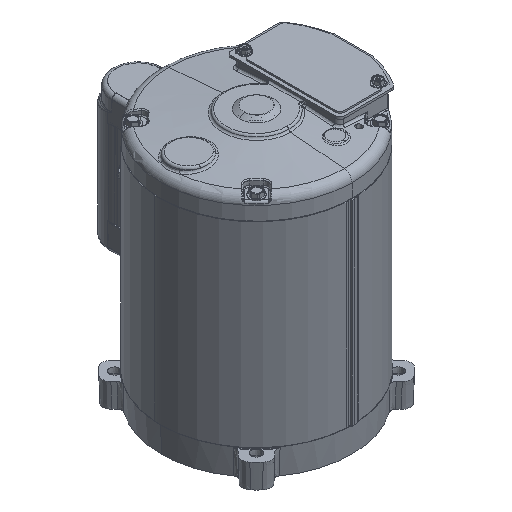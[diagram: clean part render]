
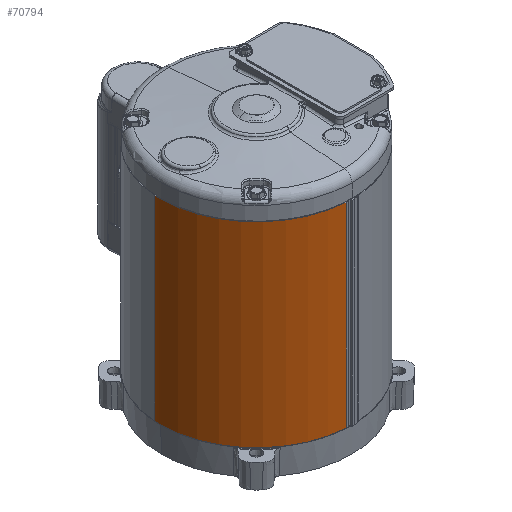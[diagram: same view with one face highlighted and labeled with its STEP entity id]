
A CAD part, isometric view. The second image highlights one B-rep face of the part: STEP entity #70794.
In plain terms, the highlighted cylindrical face has radius 71.369 mm (diameter 142.738 mm), a partial arc.
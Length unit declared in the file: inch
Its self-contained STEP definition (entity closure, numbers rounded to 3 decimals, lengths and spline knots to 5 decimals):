
#1831 = VERTEX_POINT ( 'NONE', #98170 ) ;
#2530 = LINE ( 'NONE', #94974, #38596 ) ;
#4550 = EDGE_CURVE ( 'NONE', #91894, #81452, #50966, .T. ) ;
#6133 = ORIENTED_EDGE ( 'NONE', *, *, #31707, .T. ) ;
#7473 = CARTESIAN_POINT ( 'NONE',  ( 0., 0., 23.58675 ) ) ;
#7788 = AXIS2_PLACEMENT_3D ( 'NONE', #7473, #64777, #15437 ) ;
#9294 = DIRECTION ( 'NONE',  ( 0., 0., 1. ) ) ;
#10003 = CARTESIAN_POINT ( 'NONE',  ( 0., 0., 2.8206 ) ) ;
#10671 = CARTESIAN_POINT ( 'NONE',  ( 0., 0., 2.8206 ) ) ;
#14907 = DIRECTION ( 'NONE',  ( 1., 0., 0. ) ) ;
#15437 = DIRECTION ( 'NONE',  ( -0.998, 0.065, 0. ) ) ;
#15450 = CYLINDRICAL_SURFACE ( 'NONE', #7788, 2.8098 ) ;
#17257 = DIRECTION ( 'NONE',  ( -1., 0., 0. ) ) ;
#18973 = DIRECTION ( 'NONE',  ( 0., 0., 1. ) ) ;
#19883 = AXIS2_PLACEMENT_3D ( 'NONE', #10671, #18973, #41990 ) ;
#19992 = CARTESIAN_POINT ( 'NONE',  ( -2.80378, 0.18377, 2.8206 ) ) ;
#22562 = CARTESIAN_POINT ( 'NONE',  ( -2.8098, 0., 8.5506 ) ) ;
#23428 = AXIS2_PLACEMENT_3D ( 'NONE', #10003, #9294, #17257 ) ;
#27733 = LINE ( 'NONE', #93902, #44478 ) ;
#28201 = EDGE_CURVE ( 'NONE', #94417, #55003, #100414, .T. ) ;
#29864 = EDGE_LOOP ( 'NONE', ( #54689, #82269, #6133, #64064, #77428, #59354 ) ) ;
#31707 = EDGE_CURVE ( 'NONE', #1831, #98225, #27733, .T. ) ;
#38596 = VECTOR ( 'NONE', #71378, 39.37008 ) ;
#40342 = CIRCLE ( 'NONE', #66742, 2.8098 ) ;
#41519 = CARTESIAN_POINT ( 'NONE',  ( 0., 0., 8.5506 ) ) ;
#41990 = DIRECTION ( 'NONE',  ( -1., 0., 0. ) ) ;
#44478 = VECTOR ( 'NONE', #60249, 39.37008 ) ;
#48682 = CIRCLE ( 'NONE', #23428, 2.8098 ) ;
#48836 = CARTESIAN_POINT ( 'NONE',  ( -0.18377, -2.80378, 8.5506 ) ) ;
#50966 = CIRCLE ( 'NONE', #19883, 2.8098 ) ;
#54689 = ORIENTED_EDGE ( 'NONE', *, *, #28201, .T. ) ;
#55003 = VERTEX_POINT ( 'NONE', #22562 ) ;
#59354 = ORIENTED_EDGE ( 'NONE', *, *, #91640, .F. ) ;
#60249 = DIRECTION ( 'NONE',  ( 0., 0., -1. ) ) ;
#61355 = AXIS2_PLACEMENT_3D ( 'NONE', #41519, #83214, #83562 ) ;
#62613 = CARTESIAN_POINT ( 'NONE',  ( -2.8098, 0., 2.8206 ) ) ;
#64064 = ORIENTED_EDGE ( 'NONE', *, *, #106052, .T. ) ;
#64263 = CARTESIAN_POINT ( 'NONE',  ( 0., 0., 8.5506 ) ) ;
#64777 = DIRECTION ( 'NONE',  ( 0., 0., -1. ) ) ;
#66742 = AXIS2_PLACEMENT_3D ( 'NONE', #64263, #71128, #14907 ) ;
#67170 = EDGE_CURVE ( 'NONE', #55003, #1831, #40342, .T. ) ;
#70794 = ADVANCED_FACE ( 'NONE', ( #82307 ), #15450, .T. ) ;
#71128 = DIRECTION ( 'NONE',  ( 0., 0., -1. ) ) ;
#71378 = DIRECTION ( 'NONE',  ( 0., 0., -1. ) ) ;
#77428 = ORIENTED_EDGE ( 'NONE', *, *, #4550, .T. ) ;
#81452 = VERTEX_POINT ( 'NONE', #101892 ) ;
#82269 = ORIENTED_EDGE ( 'NONE', *, *, #67170, .T. ) ;
#82307 = FACE_OUTER_BOUND ( 'NONE', #29864, .T. ) ;
#83214 = DIRECTION ( 'NONE',  ( 0., 0., -1. ) ) ;
#83562 = DIRECTION ( 'NONE',  ( 1., 0., 0. ) ) ;
#91640 = EDGE_CURVE ( 'NONE', #94417, #81452, #2530, .T. ) ;
#91894 = VERTEX_POINT ( 'NONE', #62613 ) ;
#93902 = CARTESIAN_POINT ( 'NONE',  ( -2.80378, 0.18377, 23.58675 ) ) ;
#94417 = VERTEX_POINT ( 'NONE', #48836 ) ;
#94974 = CARTESIAN_POINT ( 'NONE',  ( -0.18377, -2.80378, 8.6456 ) ) ;
#98170 = CARTESIAN_POINT ( 'NONE',  ( -2.80378, 0.18377, 8.5506 ) ) ;
#98225 = VERTEX_POINT ( 'NONE', #19992 ) ;
#100414 = CIRCLE ( 'NONE', #61355, 2.8098 ) ;
#101892 = CARTESIAN_POINT ( 'NONE',  ( -0.18377, -2.80378, 2.8206 ) ) ;
#106052 = EDGE_CURVE ( 'NONE', #98225, #91894, #48682, .T. ) ;
